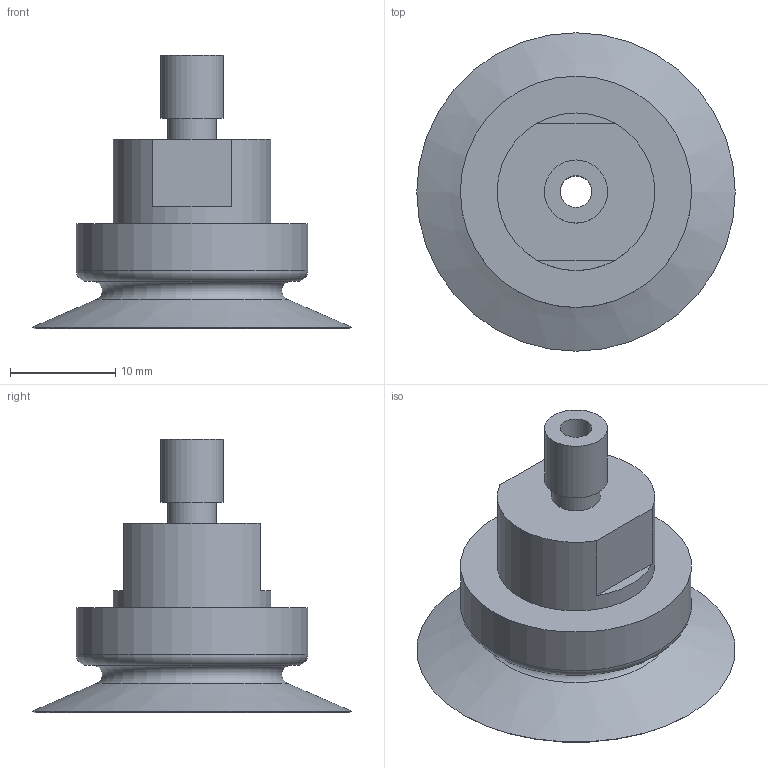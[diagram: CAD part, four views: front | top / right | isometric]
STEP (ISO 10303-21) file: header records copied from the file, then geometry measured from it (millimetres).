
FILE_DESCRIPTION(('STEP AP203'),'1');
FILE_NAME('_3D.stp','2024-06-11T23:12:13',(' '),(' '),'Spatial InterOp 3D',' ',' ');
FILE_SCHEMA(('CONFIG_CONTROL_DESIGN'));
Length unit declared in the file: millimetre
Products named in the file (1): 1
Bounding box: 30.3 x 30.3 x 26 mm (x, y, z)
Volume: 4108.6 mm3; surface area: 3141.6 mm2
Topology: 1 solids, 1 shells, 85 faces, 214 edges, 140 vertices
Faces by surface type: cylinder 41, plane 39, cone 3, torus 2
Full cylindrical faces by diameter (mm): 3 x1, 4.6 x1, 6 x1, 15 x1, 22 x1
Entity records: 2572 total; most frequent: DIRECTION 474, CARTESIAN_POINT 428, ORIENTED_EDGE 406, EDGE_CURVE 203, AXIS2_PLACEMENT_3D 185, VERTEX_POINT 139, EDGE_LOOP 106, LINE 104
